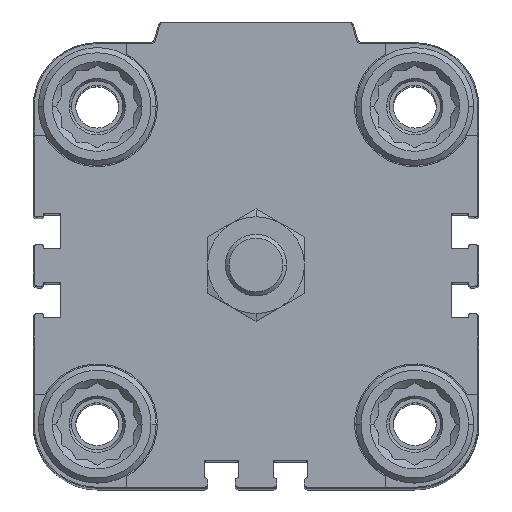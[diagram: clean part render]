
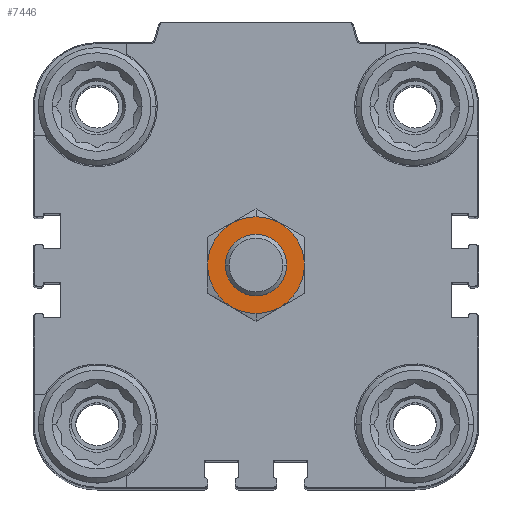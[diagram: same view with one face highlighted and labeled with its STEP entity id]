
A CAD part, top view. The second image highlights one B-rep face of the part: STEP entity #7446.
In plain terms, the highlighted planar face has unit normal (0, 0, 1).
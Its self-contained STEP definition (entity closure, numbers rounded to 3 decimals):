
#940 = ORIENTED_EDGE ( 'NONE', *, *, #6737, .F. ) ;
#996 = EDGE_CURVE ( 'NONE', #8861, #7346, #12321, .T. ) ;
#1034 = AXIS2_PLACEMENT_3D ( 'NONE', #8838, #7661, #10987 ) ;
#1169 = EDGE_CURVE ( 'NONE', #14288, #7507, #4404, .T. ) ;
#1958 = EDGE_LOOP ( 'NONE', ( #940, #17188 ) ) ;
#2238 = CARTESIAN_POINT ( 'NONE',  ( 0., 0., 18.5 ) ) ;
#2984 = DIRECTION ( 'NONE',  ( 0., 0., -1. ) ) ;
#4043 = DIRECTION ( 'NONE',  ( 0., 0., -1. ) ) ;
#4351 = DIRECTION ( 'NONE',  ( 0., -1., 0. ) ) ;
#4404 = CIRCLE ( 'NONE', #13328, 6. ) ;
#4808 = CARTESIAN_POINT ( 'NONE',  ( 0., -6., 18.5 ) ) ;
#5821 = CARTESIAN_POINT ( 'NONE',  ( 0., 6., 18.5 ) ) ;
#6737 = EDGE_CURVE ( 'NONE', #7346, #8861, #20394, .T. ) ;
#7346 = VERTEX_POINT ( 'NONE', #12229 ) ;
#7446 = ADVANCED_FACE ( 'NONE', ( #14366, #16319 ), #17613, .F. ) ;
#7507 = VERTEX_POINT ( 'NONE', #4808 ) ;
#7661 = DIRECTION ( 'NONE',  ( 0., 0., -1. ) ) ;
#8838 = CARTESIAN_POINT ( 'NONE',  ( 0., 0., 18.5 ) ) ;
#8861 = VERTEX_POINT ( 'NONE', #11586 ) ;
#9184 = CARTESIAN_POINT ( 'NONE',  ( 0., 0., 18.5 ) ) ;
#9529 = DIRECTION ( 'NONE',  ( 0., -1., 0. ) ) ;
#9664 = EDGE_LOOP ( 'NONE', ( #13366, #13989 ) ) ;
#10262 = AXIS2_PLACEMENT_3D ( 'NONE', #10835, #19116, #17516 ) ;
#10835 = CARTESIAN_POINT ( 'NONE',  ( 0., 0., 18.5 ) ) ;
#10987 = DIRECTION ( 'NONE',  ( 0., -1., 0. ) ) ;
#11586 = CARTESIAN_POINT ( 'NONE',  ( 0., 9.45, 18.5 ) ) ;
#12229 = CARTESIAN_POINT ( 'NONE',  ( 0., -9.45, 18.5 ) ) ;
#12321 = CIRCLE ( 'NONE', #10262, 9.45 ) ;
#13328 = AXIS2_PLACEMENT_3D ( 'NONE', #2238, #4043, #20171 ) ;
#13366 = ORIENTED_EDGE ( 'NONE', *, *, #1169, .T. ) ;
#13989 = ORIENTED_EDGE ( 'NONE', *, *, #16130, .T. ) ;
#14288 = VERTEX_POINT ( 'NONE', #5821 ) ;
#14366 = FACE_OUTER_BOUND ( 'NONE', #1958, .T. ) ;
#14747 = DIRECTION ( 'NONE',  ( 0., 0., -1. ) ) ;
#16130 = EDGE_CURVE ( 'NONE', #7507, #14288, #20920, .T. ) ;
#16319 = FACE_BOUND ( 'NONE', #9664, .T. ) ;
#16974 = AXIS2_PLACEMENT_3D ( 'NONE', #9184, #14747, #4351 ) ;
#17188 = ORIENTED_EDGE ( 'NONE', *, *, #996, .F. ) ;
#17516 = DIRECTION ( 'NONE',  ( 0., -1., 0. ) ) ;
#17613 = PLANE ( 'NONE',  #20872 ) ;
#19116 = DIRECTION ( 'NONE',  ( 0., 0., -1. ) ) ;
#20171 = DIRECTION ( 'NONE',  ( 0., -1., 0. ) ) ;
#20394 = CIRCLE ( 'NONE', #16974, 9.45 ) ;
#20872 = AXIS2_PLACEMENT_3D ( 'NONE', #20930, #2984, #9529 ) ;
#20920 = CIRCLE ( 'NONE', #1034, 6. ) ;
#20930 = CARTESIAN_POINT ( 'NONE',  ( 0., 0., 18.5 ) ) ;
